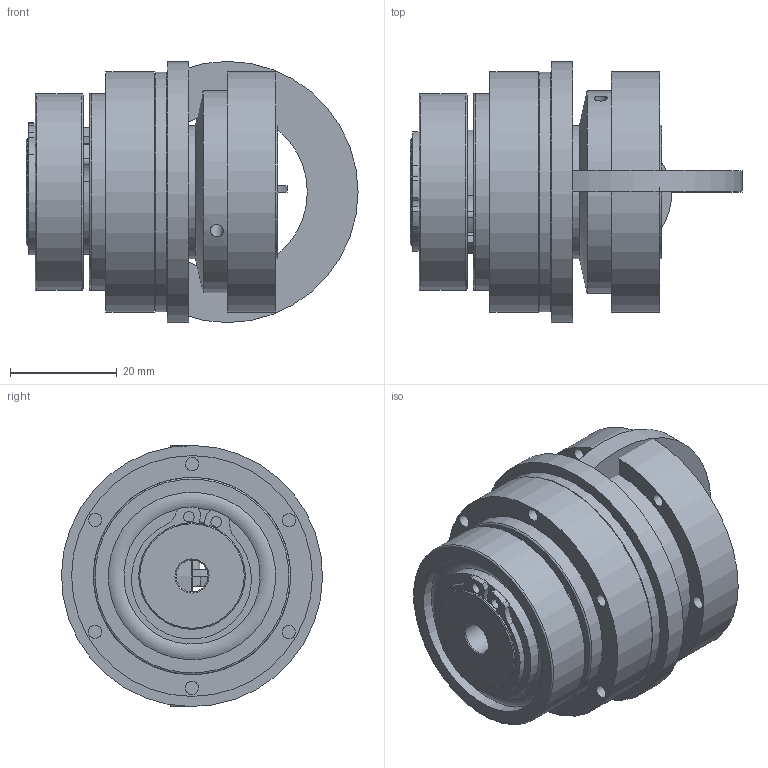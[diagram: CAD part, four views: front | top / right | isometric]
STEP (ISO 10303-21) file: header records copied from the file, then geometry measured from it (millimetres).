
FILE_DESCRIPTION( ( 'Unknown' ), '1' );
FILE_NAME( 'C:/Dokumente und Einstellungen/Sven/Desktop/hp kbk/KBK LL-I-10.stp', 'Unknown', ( 'Unknown' ), ( 'Unknown' ), 'XStep 1.0', 'Unknown', ' ' );
FILE_SCHEMA( ( 'automotive_design' ) );
Length unit declared in the file: millimetre
Products named in the file (12): Assem1; Assem2; ball_bearing_-_61904_0_01; ball_bearing_-_61904_0_02; ball_bearing_-_61904_0_03; Stellring 10; Druckring 10; a_20; Konusbuchse KBK 10; din_en_24017_m3x12; KBK LL-I-10 Grundkörper; Flansch L-LL10
Bounding box: 62.3 x 48.99 x 49 mm (x, y, z)
Volume: 85330.9 mm3; surface area: 66154.9 mm2
Topology: 30 solids, 30 shells, 430 faces, 912 edges, 573 vertices
Faces by surface type: plane 185, cylinder 140, cone 68, torus 37
Full cylindrical faces by diameter (mm): 2 x6, 2.459 x28, 3 x5, 3.1 x8, 4.57 x5, 6 x4, 16 x2, 19 x4, 20 x10, 24 x4, 25 x4, 25.6 x8, 29 x2, 29.993 x2, 31.4 x8, 37 x6, 38 x2, 40 x2, 45 x2, 45.2 x2, 49 x2
Entity records: 4323 total; most frequent: CARTESIAN_POINT 822, DIRECTION 728, ORIENTED_EDGE 484, AXIS2_PLACEMENT_3D 336, EDGE_LOOP 276, EDGE_CURVE 242, FACE_OUTER_BOUND 213, VERTEX_POINT 190
